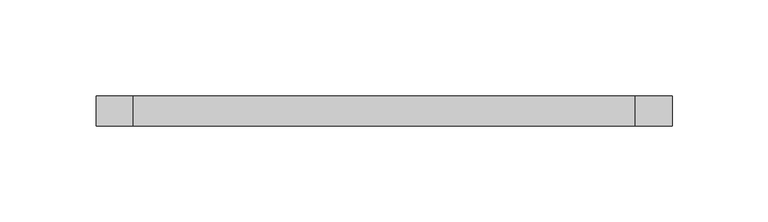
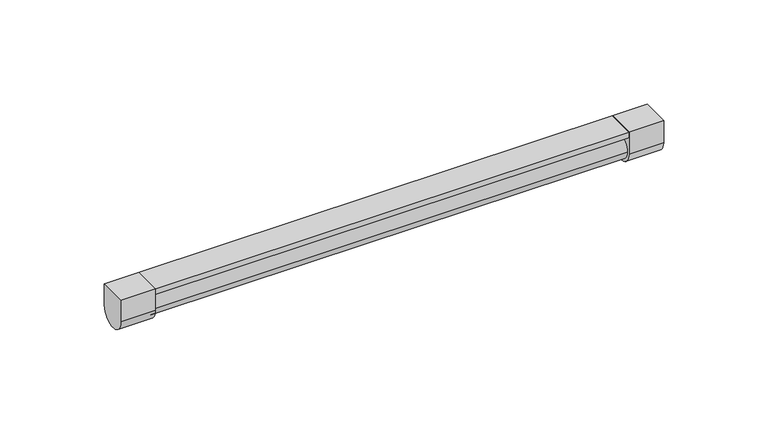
"""IFC4 building model written with IfcOpenShell, lengths in millimetres: light fixture geometry, 層板燈 (3)-向下照射 : 10W層板燈-TEST."""

import ifcopenshell
import ifcopenshell.guid

model = None  # the IFC model being written
_history = None  # IfcOwnerHistory: only IFC2X3 demands one
_inside = {}  # id of a spatial element -> (the spatial element, [elements in it])
_under = {}  # id of a project, library or spatial element -> (it, [spatial elements below it])
_declared = {}  # id of a project -> (the project, [libraries it declares])
_typed = {}  # id of a type object -> (the type object, [elements of that type])
_made_of = {}  # id of a material, layer set ... -> (it, [elements and type objects made of it])


def new_model(schema):
    """Start an empty IFC model of exactly this schema.

    Asked for "IFC4X3", IfcOpenShell would pick the latest addendum, in which some entities
    have other attributes; the version numbers below select the first issue.
    IFC2X3 requires an IfcOwnerHistory on every rooted entity: one is made here for all.
    """
    global model, _history
    if schema == "IFC4X3":
        model = ifcopenshell.file(schema_version=(4, 3, 0, 0))
    else:
        model = ifcopenshell.file(schema=schema)
    _inside.clear()
    _under.clear()
    _declared.clear()
    _typed.clear()
    _made_of.clear()
    _history = None
    if model.schema == "IFC2X3":
        org = make("IfcOrganization", Name="unknown")
        user = make(
            "IfcPersonAndOrganization",
            ThePerson=make("IfcPerson", FamilyName="unknown"),
            TheOrganization=org,
        )
        app = make(
            "IfcApplication",
            ApplicationDeveloper=org,
            Version="unknown",
            ApplicationFullName="unknown",
            ApplicationIdentifier="unknown",
        )
        _history = make(
            "IfcOwnerHistory",
            OwningUser=user,
            OwningApplication=app,
            ChangeAction="ADDED",
            CreationDate=0,
        )
    return model


def make(cls, **values):
    """One entity of the class cls with the attributes given. An attribute that is None is left unset."""
    return model.create_entity(
        cls, **{name: value for name, value in values.items() if value is not None}
    )


def rooted(cls, **values):
    """An entity with a GlobalId (a new one), such as an element, a storey or a relation."""
    return make(cls, GlobalId=ifcopenshell.guid.new(), OwnerHistory=_history, **values)


def si_unit(unit_type, name, prefix=None):
    """IfcSIUnit, for example si_unit("LENGTHUNIT", "METRE", prefix="MILLI")."""
    return make("IfcSIUnit", UnitType=unit_type, Prefix=prefix, Name=name)


def assignment(units):
    """IfcUnitAssignment: the units of a project."""
    return None if units is None else make("IfcUnitAssignment", Units=units)


def point(xyz):
    """IfcCartesianPoint."""
    return None if xyz is None else make("IfcCartesianPoint", Coordinates=xyz)


def direction(xyz):
    """IfcDirection."""
    return None if xyz is None else make("IfcDirection", DirectionRatios=xyz)


def frame(location, z_axis=None, x_axis=None):
    """IfcAxis2Placement3D, a coordinate frame: its origin and axes. An axis left out is left unset."""
    return make(
        "IfcAxis2Placement3D",
        Location=point(location),
        Axis=direction(z_axis),
        RefDirection=direction(x_axis),
    )


def frame_2d(location, x_axis=None):
    """IfcAxis2Placement2D, a coordinate frame in the plane: its origin and x axis."""
    return make(
        "IfcAxis2Placement2D", Location=point(location), RefDirection=direction(x_axis)
    )


def origin():
    """The frame at (0, 0, 0) with its axes left unset."""
    return frame((0.0, 0.0, 0.0))


def place(relative_to, where):
    """IfcLocalPlacement: puts the frame where relative to a parent placement (None: the world)."""
    return make(
        "IfcLocalPlacement", PlacementRelTo=relative_to, RelativePlacement=where
    )


def context(
    kind, dimensions, precision=None, world=None, true_north=None, identifier=None
):
    """IfcGeometricRepresentationContext, for example the 3D "Model" context."""
    return make(
        "IfcGeometricRepresentationContext",
        ContextIdentifier=identifier,
        ContextType=kind,
        CoordinateSpaceDimension=dimensions,
        Precision=precision,
        WorldCoordinateSystem=world,
        TrueNorth=true_north,
    )


def project(units=None, contexts=None):
    """IfcProject with its units and contexts."""
    return rooted(
        "IfcProject",
        Name="project",
        RepresentationContexts=contexts,
        UnitsInContext=assignment(units),
    )


def spatial(cls, under=None, at=None, **own):
    """A site, building, storey or space (cls), placed at a placement, below another one or the project."""
    s = rooted(cls, ObjectPlacement=at, **own)
    if under is not None:
        _under.setdefault(under.id(), (under, []))[1].append(s)
    return s


def polyline(points):
    """IfcPolyline through the points."""
    return make("IfcPolyline", Points=[point(p) for p in points])


def circle_curve(where, radius):
    """IfcCircle in the frame where."""
    return make("IfcCircle", Position=where, Radius=radius)


def trimmed(basis, trim1, trim2, sense, master):
    """IfcTrimmedCurve: the piece of a basis curve between two trims."""
    return make(
        "IfcTrimmedCurve",
        BasisCurve=basis,
        Trim1=trim1,
        Trim2=trim2,
        SenseAgreement=sense,
        MasterRepresentation=master,
    )


def segment(curve, same_sense, transition):
    """IfcCompositeCurveSegment."""
    return make(
        "IfcCompositeCurveSegment",
        Transition=transition,
        SameSense=same_sense,
        ParentCurve=curve,
    )


def composite_curve(segments, self_intersect=None):
    """IfcCompositeCurve: segments joined end to end."""
    return make("IfcCompositeCurve", Segments=segments, SelfIntersect=self_intersect)


def outline(outer, holes=None, kind="AREA"):
    """IfcArbitraryClosedProfileDef: a profile drawn as a closed curve; with holes, ...WithVoids."""
    if holes is None:
        return make("IfcArbitraryClosedProfileDef", ProfileType=kind, OuterCurve=outer)
    return make(
        "IfcArbitraryProfileDefWithVoids",
        ProfileType=kind,
        OuterCurve=outer,
        InnerCurves=holes,
    )


def extrude(swept, where, along, depth):
    """IfcExtrudedAreaSolid: the profile swept, set in the frame where, extruded along a direction by depth."""
    return make(
        "IfcExtrudedAreaSolid",
        SweptArea=swept,
        Position=where,
        ExtrudedDirection=direction(along),
        Depth=depth,
    )


def shape(context_of_items, identifier, shape_type, items):
    """IfcShapeRepresentation: the items that make up one representation, for example the "Body"."""
    return make(
        "IfcShapeRepresentation",
        ContextOfItems=context_of_items,
        RepresentationIdentifier=identifier,
        RepresentationType=shape_type,
        Items=items,
    )


def source(mapping_origin, context_of_items, identifier, shape_type, items):
    """IfcRepresentationMap: a shape defined once, which mapped items show again and again."""
    return make(
        "IfcRepresentationMap",
        MappingOrigin=mapping_origin,
        MappedRepresentation=shape(context_of_items, identifier, shape_type, items),
    )


def transform(
    local_origin,
    x_axis=None,
    y_axis=None,
    z_axis=None,
    scale=None,
    scale2=None,
    scale3=None,
    uniform=True,
):
    """IfcCartesianTransformationOperator3D, or its non-uniform kind. x_axis, y_axis, z_axis: its Axis1, 2, 3."""
    if uniform:
        return make(
            "IfcCartesianTransformationOperator3D",
            Axis1=direction(x_axis),
            Axis2=direction(y_axis),
            LocalOrigin=point(local_origin),
            Scale=scale,
            Axis3=direction(z_axis),
        )
    return make(
        "IfcCartesianTransformationOperator3DnonUniform",
        Axis1=direction(x_axis),
        Axis2=direction(y_axis),
        LocalOrigin=point(local_origin),
        Scale=scale,
        Axis3=direction(z_axis),
        Scale2=scale2,
        Scale3=scale3,
    )


def mapped(mapping_source, mapping_target):
    """IfcMappedItem: shows the shape of a source again, moved by a transform."""
    return make(
        "IfcMappedItem", MappingSource=mapping_source, MappingTarget=mapping_target
    )


def made_of(thing, what):
    """Note that an element or type object is made of a material, layer set ...; save() writes the relation."""
    if what is not None:
        _made_of.setdefault(what.id(), (what, []))[1].append(thing)
    return thing


def element(
    cls,
    number,
    at=None,
    inside=None,
    cuts=None,
    type_object=None,
    material=None,
    context=None,
    identifier="Body",
    shape_type=None,
    held_by="IfcProductDefinitionShape",
    body=None,
    shapes=None,
    **own,
):
    """One element of the class cls, such as IfcWall. Its Tag is "e" and its number.

    at: its placement. inside: the storey or other place that contains it. cuts: it is an
    opening in that element (IfcRelVoidsElement). A single representation is given by context,
    identifier, shape_type and body (its items); several are given by shapes. held_by: the class
    of the entity that holds the representations. save() writes the other relations.
    """
    e = rooted(cls, Tag="e%d" % number, ObjectPlacement=at, **own)
    if body is not None:
        shapes = [shape(context, identifier, shape_type, body)]
    if shapes is not None:
        e.Representation = make(held_by, Representations=shapes)
    if inside is not None:
        _inside.setdefault(inside.id(), (inside, []))[1].append(e)
    if cuts is not None:
        rooted(
            "IfcRelVoidsElement", RelatingBuildingElement=cuts, RelatedOpeningElement=e
        )
    if type_object is not None:
        _typed.setdefault(type_object.id(), (type_object, []))[1].append(e)
    return made_of(e, material)


def aggregate(whole, parts):
    """IfcRelAggregates: a whole, such as a stair, and the parts it consists of."""
    return rooted("IfcRelAggregates", RelatingObject=whole, RelatedObjects=parts)


def save(model, path):
    """Write the relations noted so far, then the file.

    IfcRelAggregates (storeys below a building ...), IfcRelContainedInSpatialStructure (elements
    in a storey), IfcRelDefinesByType, IfcRelAssociatesMaterial and IfcRelDeclares: one each for
    every whole, place, type object, material and project.
    """
    for whole, parts in _under.values():
        aggregate(whole, parts)
    for where, things in _inside.values():
        rooted(
            "IfcRelContainedInSpatialStructure",
            RelatedElements=things,
            RelatingStructure=where,
        )
    for kind, things in _typed.values():
        rooted("IfcRelDefinesByType", RelatedObjects=things, RelatingType=kind)
    for what, things in _made_of.values():
        rooted("IfcRelAssociatesMaterial", RelatedObjects=things, RelatingMaterial=what)
    for by, libraries in _declared.values():
        rooted("IfcRelDeclares", RelatingContext=by, RelatedDefinitions=libraries)
    model.write(path)


def light_fixture_87da6989(model_context):
    return source(origin(), model_context, "Body", "SweptSolid", [
        extrude(outline(composite_curve([segment(trimmed(circle_curve(frame_2d((0.0, 11987.3)), 6.35), [point((-6.35, 11987.3))], [point((6.35, 11987.3))], False, "CARTESIAN"), True, "CONTINUOUS"), segment(trimmed(circle_curve(frame_2d((0.0, 11987.3)), 6.35), [point((6.35, 11987.3))], [point((-6.35, 11987.3))], False, "CARTESIAN"), True, "CONTINUOUS")], self_intersect=False)), frame((-130.95, 0.0, 0.0), z_axis=(1.0, 0.0, 0.0), x_axis=(0.0, 1.0, 0.0)), (0.0, 0.0, 1.0), 261.9),
        extrude(outline(composite_curve([segment(polyline([(-7.9375, 12000.0), (7.9375, 12000.0), (7.9375, 11987.3)]), True, "CONTINUOUS"), segment(trimmed(circle_curve(frame_2d((0.0, 11987.3)), 7.9375), [point((7.9375, 11987.3))], [point((-7.9375, 11987.3))], False, "CARTESIAN"), True, "CONTINUOUS"), segment(polyline([(-7.9375, 11987.3), (-7.9375, 12000.0)]), True, "CONTINUOUS")], self_intersect=False)), frame((130.95, 0.0, 0.0), z_axis=(1.0, 0.0, 0.0), x_axis=(0.0, 1.0, 0.0)), (0.0, 0.0, 1.0), 19.05),
        extrude(outline(composite_curve([segment(polyline([(7.9375, 12000.0), (7.9375, 11987.3)]), True, "CONTINUOUS"), segment(trimmed(circle_curve(frame_2d((0.0, 11987.3)), 7.9375), [point((7.9375, 11987.3))], [point((-7.9375, 11987.3))], False, "CARTESIAN"), True, "CONTINUOUS"), segment(polyline([(-7.9375, 11987.3), (-7.9375, 12000.0), (7.9375, 12000.0)]), True, "CONTINUOUS")], self_intersect=False)), frame((-150.0, 0.0, 0.0), z_axis=(1.0, 0.0, 0.0), x_axis=(0.0, 1.0, 0.0)), (0.0, 0.0, 1.0), 19.05),
        extrude(outline(polyline([(130.95, 7.9375), (130.95, -7.9375), (-130.95, -7.9375), (-130.95, 7.9375), (130.95, 7.9375)])), frame((0.0, 0.0, 11996.7197499), z_axis=(0.0, 0.0, 1.0), x_axis=(1.0, 0.0, 0.0)), (0.0, 0.0, 1.0), 3.2802501),
    ])


if __name__ == "__main__":
    model = new_model("IFC4")
    model_context = context("Model", 3, world=origin())
    ifc_project = project(units=[si_unit("LENGTHUNIT", "METRE", prefix="MILLI")], contexts=[model_context])
    site = spatial("IfcSite", under=ifc_project)
    building = spatial("IfcBuilding", under=site)
    placement = place(None, origin())
    light_fixture_shape = light_fixture_87da6989(model_context)
    element("IfcLightFixture", 1, ObjectType="層板燈 (3)-向下照射 : 10W層板燈-TEST", at=placement, inside=building, context=model_context, shape_type="MappedRepresentation", body=[
        mapped(light_fixture_shape, transform((0.0, 0.0, 0.0), x_axis=(1.0, 0.0, 0.0), y_axis=(0.0, 1.0, 0.0), z_axis=(0.0, 0.0, 1.0))),
    ])
    save(model, "model.ifc")
